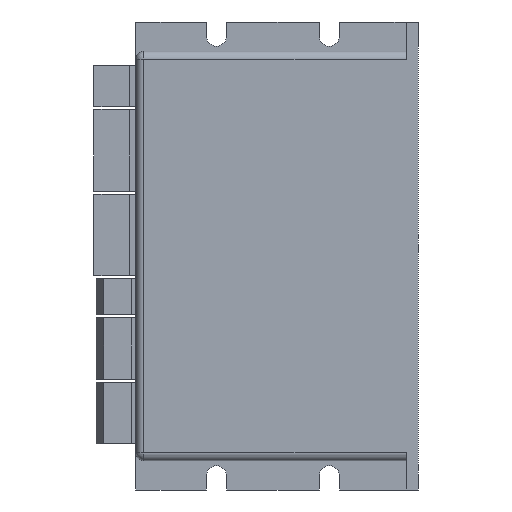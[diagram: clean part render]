
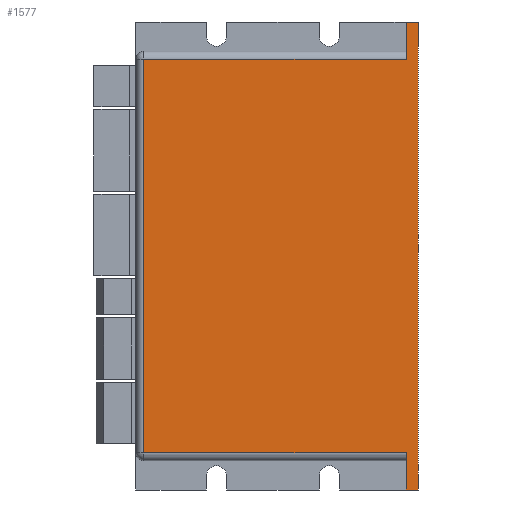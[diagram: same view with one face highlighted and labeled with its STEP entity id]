
A CAD part, left-side view. The second image highlights one B-rep face of the part: STEP entity #1577.
In plain terms, the highlighted planar face has unit normal (-1, 0, 0).
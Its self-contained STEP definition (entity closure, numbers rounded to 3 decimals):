
#26=DIRECTION('',(0.,0.,1.));
#27=VECTOR('',#26,116.);
#28=CARTESIAN_POINT('',(-13.3,0.,-58.));
#29=LINE('',#28,#27);
#55=DIRECTION('',(0.,1.,0.));
#56=VECTOR('',#55,3.);
#57=CARTESIAN_POINT('',(-13.3,0.,58.));
#58=LINE('',#57,#56);
#104=DIRECTION('',(0.,0.,-1.));
#105=VECTOR('',#104,9.25);
#106=CARTESIAN_POINT('',(-13.3,3.,58.));
#107=LINE('',#106,#105);
#133=DIRECTION('',(0.,0.,-1.));
#134=VECTOR('',#133,9.25);
#135=CARTESIAN_POINT('',(-13.3,3.,-48.75));
#136=LINE('',#135,#134);
#154=DIRECTION('',(0.,-1.,0.));
#155=VECTOR('',#154,65.);
#156=CARTESIAN_POINT('',(-13.3,68.,-48.75));
#157=LINE('',#156,#155);
#158=DIRECTION('',(0.,0.,1.));
#159=VECTOR('',#158,97.5);
#160=CARTESIAN_POINT('',(-13.3,68.,-48.75));
#161=LINE('',#160,#159);
#162=DIRECTION('',(0.,1.,0.));
#163=VECTOR('',#162,65.);
#164=CARTESIAN_POINT('',(-13.3,3.,48.75));
#165=LINE('',#164,#163);
#166=DIRECTION('',(0.,1.,0.));
#167=VECTOR('',#166,3.);
#168=CARTESIAN_POINT('',(-13.3,0.,-58.));
#169=LINE('',#168,#167);
#1045=CARTESIAN_POINT('',(-13.3,0.,-58.));
#1046=CARTESIAN_POINT('',(-13.3,0.,58.));
#1047=VERTEX_POINT('',#1045);
#1048=VERTEX_POINT('',#1046);
#1057=CARTESIAN_POINT('',(-13.3,3.,-58.));
#1058=VERTEX_POINT('',#1057);
#1059=CARTESIAN_POINT('',(-13.3,3.,58.));
#1060=VERTEX_POINT('',#1059);
#1285=CARTESIAN_POINT('',(-13.3,68.,-48.75));
#1286=CARTESIAN_POINT('',(-13.3,3.,-48.75));
#1287=VERTEX_POINT('',#1285);
#1288=VERTEX_POINT('',#1286);
#1295=CARTESIAN_POINT('',(-13.3,68.,48.75));
#1296=VERTEX_POINT('',#1295);
#1305=CARTESIAN_POINT('',(-13.3,3.,48.75));
#1306=VERTEX_POINT('',#1305);
#1558=CARTESIAN_POINT('',(-13.3,0.,-58.));
#1559=DIRECTION('',(-1.,0.,0.));
#1560=DIRECTION('',(0.,0.,1.));
#1561=AXIS2_PLACEMENT_3D('',#1558,#1559,#1560);
#1562=PLANE('',#1561);
#1564=ORIENTED_EDGE('',*,*,#1563,.F.);
#1566=ORIENTED_EDGE('',*,*,#1565,.T.);
#1568=ORIENTED_EDGE('',*,*,#1567,.F.);
#1569=ORIENTED_EDGE('',*,*,#1514,.F.);
#1570=ORIENTED_EDGE('',*,*,#1436,.F.);
#1571=ORIENTED_EDGE('',*,*,#1398,.F.);
#1573=ORIENTED_EDGE('',*,*,#1572,.T.);
#1574=ORIENTED_EDGE('',*,*,#1541,.F.);
#1575=EDGE_LOOP('',(#1564,#1566,#1568,#1569,#1570,#1571,#1573,#1574));
#1576=FACE_OUTER_BOUND('',#1575,.F.);
#1577=ADVANCED_FACE('',(#1576),#1562,.T.);
#1398=EDGE_CURVE('',#1047,#1048,#29,.T.);
#1436=EDGE_CURVE('',#1048,#1060,#58,.T.);
#1514=EDGE_CURVE('',#1060,#1306,#107,.T.);
#1541=EDGE_CURVE('',#1288,#1058,#136,.T.);
#1563=EDGE_CURVE('',#1287,#1288,#157,.T.);
#1565=EDGE_CURVE('',#1287,#1296,#161,.T.);
#1567=EDGE_CURVE('',#1306,#1296,#165,.T.);
#1572=EDGE_CURVE('',#1047,#1058,#169,.T.);
